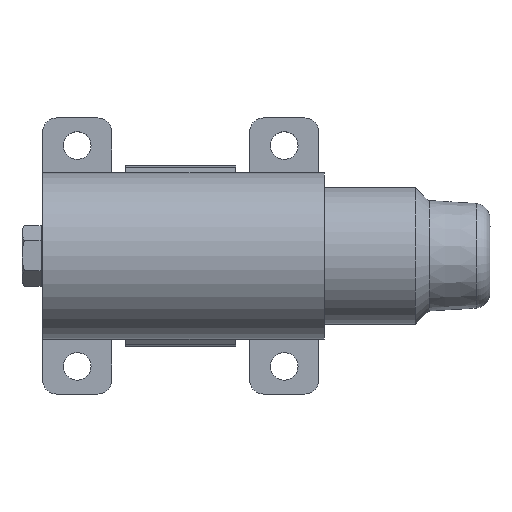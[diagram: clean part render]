
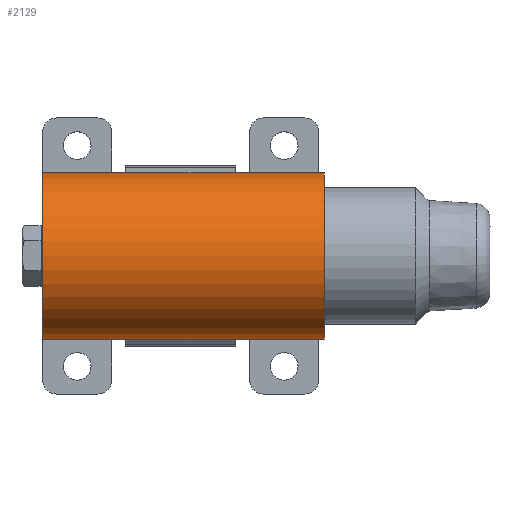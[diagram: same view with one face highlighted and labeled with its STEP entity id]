
A CAD part, top view. The second image highlights one B-rep face of the part: STEP entity #2129.
In plain terms, the highlighted cylindrical face has radius 30.15 mm (diameter 60.3 mm), a full revolution.
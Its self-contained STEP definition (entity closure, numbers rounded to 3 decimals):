
#134=CYLINDRICAL_SURFACE('',#2411,30.15);
#502=FACE_BOUND('',#778,.T.);
#614=FACE_OUTER_BOUND('',#777,.T.);
#777=EDGE_LOOP('',(#1805));
#778=EDGE_LOOP('',(#1806));
#955=CIRCLE('',#2410,30.15);
#956=CIRCLE('',#2412,30.15);
#1121=VERTEX_POINT('',#3592);
#1122=VERTEX_POINT('',#3595);
#1368=EDGE_CURVE('',#1121,#1121,#955,.T.);
#1369=EDGE_CURVE('',#1122,#1122,#956,.T.);
#1805=ORIENTED_EDGE('',*,*,#1369,.F.);
#1806=ORIENTED_EDGE('',*,*,#1368,.F.);
#2129=ADVANCED_FACE('',(#614,#502),#134,.T.);
#2410=AXIS2_PLACEMENT_3D('',#3593,#2928,#2929);
#2411=AXIS2_PLACEMENT_3D('',#3594,#2930,#2931);
#2412=AXIS2_PLACEMENT_3D('',#3596,#2932,#2933);
#2928=DIRECTION('center_axis',(0.,0.,-1.));
#2929=DIRECTION('ref_axis',(-1.,0.,0.));
#2930=DIRECTION('center_axis',(0.,0.,1.));
#2931=DIRECTION('ref_axis',(-1.,0.,0.));
#2932=DIRECTION('center_axis',(0.,0.,1.));
#2933=DIRECTION('ref_axis',(-1.,0.,0.));
#3592=CARTESIAN_POINT('',(30.15,0.,0.));
#3593=CARTESIAN_POINT('Origin',(0.,0.,0.));
#3594=CARTESIAN_POINT('Origin',(0.,0.,0.));
#3595=CARTESIAN_POINT('',(30.15,0.,102.));
#3596=CARTESIAN_POINT('Origin',(0.,0.,102.));
